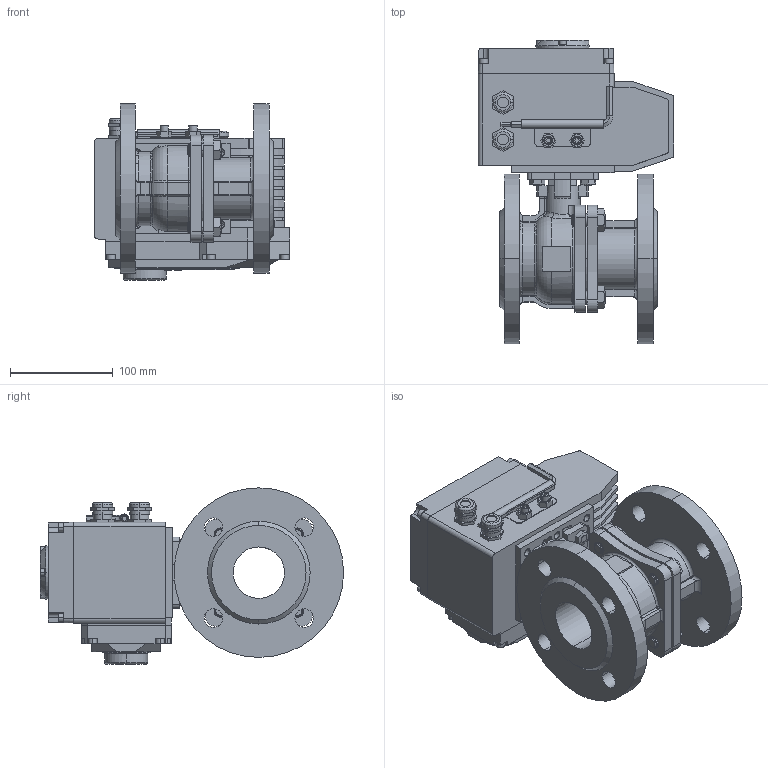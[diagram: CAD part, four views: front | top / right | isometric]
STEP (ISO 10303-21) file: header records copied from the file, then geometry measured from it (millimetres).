
FILE_DESCRIPTION((''),'2;1');
FILE_NAME('BV-22F_EAR_T_ASM','2025-03-03T',('USER'),(''),'PRO/ENGINEER BY PARAMETRIC TECHNOLOGY CORPORATION, 2011220','PRO/ENGINEER BY PARAMETRIC TECHNOLOGY CORPORATION, 2011220','');
FILE_SCHEMA(('CONFIG_CONTROL_DESIGN'));
Length unit declared in the file: millimetre
Products named in the file (15): KORPUS_KRAN_FL; B-7798-M12-25; SB_KRAN_FL_ASM; DET_1; V-11738-M5; V-11738-M4; DET_2; KREPLENIE; KLUCH; DET_3; G-5915-M8; ELECTROPRIVOD_ASM; ELECTROPRIVOD_WITH_DISPLAY_ASM; B-7798-M8-20; BV-22F_EAR_T_ASM
Assembly tree (33 placements, depth 4):
  BV-22F_EAR_T_ASM
    SB_KRAN_FL_ASM
      KORPUS_KRAN_FL
      B-7798-M12-25  x4
    ELECTROPRIVOD_WITH_DISPLAY_ASM
      ELECTROPRIVOD_ASM
        DET_1
        V-11738-M5  x10
        V-11738-M4  x4
        DET_2
        KREPLENIE
        KLUCH
        DET_3
        G-5915-M8  x2
    B-7798-M8-20  x4
Bounding box: 190 x 295 x 171.5 mm (x, y, z)
Volume: 3262666.5 mm3; surface area: 430787.4 mm2
Topology: 30 solids, 74 shells, 1562 faces, 4042 edges, 2638 vertices
Faces by surface type: plane 946, cylinder 454, cone 90, torus 37, bspline 30, sphere 4, extrusion 1
Entity records: 40272 total; most frequent: CARTESIAN_POINT 8700, DIRECTION 6534, ORIENTED_EDGE 6412, EDGE_CURVE 3258, VECTOR 2284, LINE 2283, VERTEX_POINT 2142, AXIS2_PLACEMENT_3D 2125
